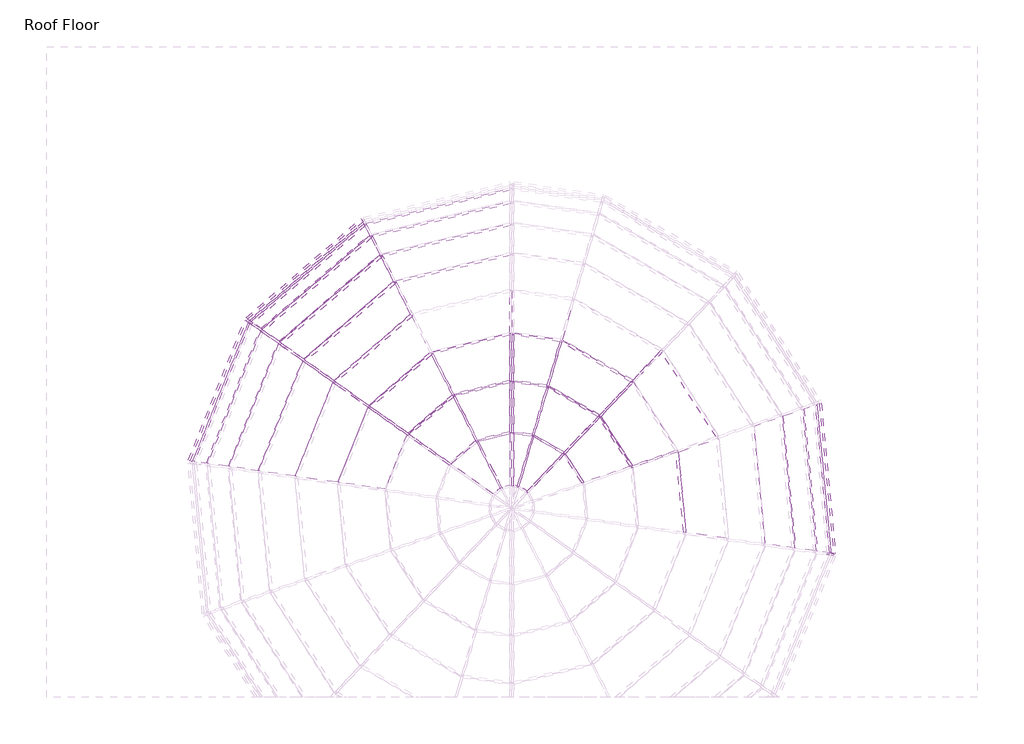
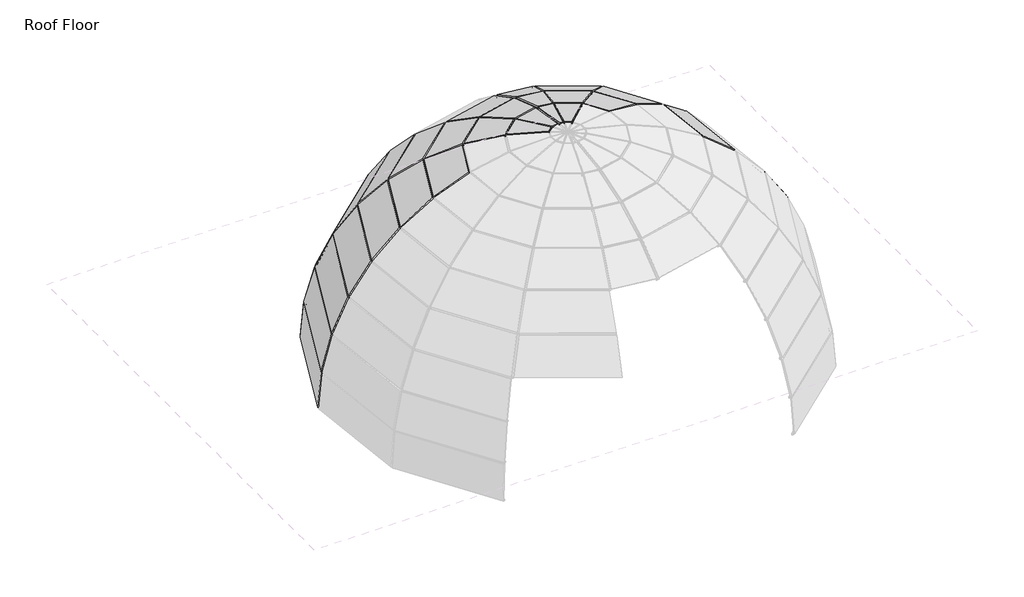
# One storey, part 4 of 5: 58 members, 33 plates.
"""IFC4 building model written with IfcOpenShell, lengths in millimetres."""

from ifc_helpers import new_model, si_unit, origin, place, context, project, spatial, transform, mapped, element, save
from components import member_e5884c93, member_68b33a8a, member_1644e863, member_7f7bd10d, member_27f65fe7, member_ecfbb555, member_824fc51d, member_3542fcca, member_54749c12, member_b6c57be0, member_ac816b31, member_27e61d6b, member_24c90e2e, member_355504b0, member_dee8aa16, member_df6d12cb, member_6952dcc5, member_4046197d, member_16c772f1, member_ac46e98e, member_b6a9e346, member_16816f3b, member_d3833f24, member_95e271e4, member_8ccf5568, member_a4aff84e, member_5ef621be, member_85a1b8f2, system_panel_glazed_dfb81899, system_panel_glazed_10998a2e, system_panel_glazed_044c179b, system_panel_glazed_0d06b648, system_panel_glazed_0487fba4, system_panel_glazed_bd6fc11e, system_panel_glazed_82f63ae4, system_panel_glazed_cc30576f, system_panel_glazed_e6c51f9e, system_panel_glazed_c38a1470, system_panel_glazed_e8cc6fa0, system_panel_glazed_475a38df, system_panel_glazed_a1227523, system_panel_glazed_6841621f, system_panel_glazed_d824ba65

model = new_model("IFC4")

# Units and contexts
model_context = context("Model", 3, world=origin())
ifc_project = project(units=[si_unit("LENGTHUNIT", "METRE", prefix="MILLI")], contexts=[model_context])

# Site, building, storey
site = spatial("IfcSite", under=ifc_project)
building = spatial("IfcBuilding", under=site)
storey = spatial("IfcBuildingStorey", under=building, Name="Roof Floor", Elevation=15240.0)

# Members
placement = place(None, origin())
member_shape = member_e5884c93(model_context)
element("IfcMember", 1, ObjectType="Rectangular Mullion : 1\" Square", at=placement, inside=storey, context=model_context, shape_type="MappedRepresentation", body=[
    mapped(member_shape, transform((-5386.0704997, 1405.930168, 21117.9670279), x_axis=(0.4123904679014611, -0.47609224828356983, 0.7767047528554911), y_axis=(-0.5085307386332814, 0.5870832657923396, 0.6298648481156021), z_axis=(-0.75586413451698, -0.654728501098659, 0.0))),
])
member_2_shape = member_68b33a8a(model_context)
element("IfcMember", 2, ObjectType="Rectangular Mullion : 1\" Square", at=placement, inside=storey, context=model_context, shape_type="MappedRepresentation", body=[
    mapped(member_2_shape, transform((-4103.8308858, 2508.907042, 21117.9670279), x_axis=(0.14846056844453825, -0.6121186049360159, 0.7767047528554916), y_axis=(-0.18307106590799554, 0.7548213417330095, 0.6298648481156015), z_axis=(-0.9718253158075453, -0.23570226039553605, 0.0))),
])
member_3_shape = member_1644e863(model_context)
element("IfcMember", 3, ObjectType="Rectangular Mullion : 1\" Square", at=placement, inside=storey, context=model_context, shape_type="MappedRepresentation", body=[
    mapped(member_3_shape, transform((-5728.2554226, 1649.7192684, 20482.2624164), x_axis=(0.32116850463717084, -0.37077926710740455, 0.8714204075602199), y_axis=(-0.5705437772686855, 0.6586754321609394, 0.4905369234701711), z_axis=(-0.7558641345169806, -0.6547285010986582, 0.0))),
])
member_4_shape = member_7f7bd10d(model_context)
element("IfcMember", 4, ObjectType="Rectangular Mullion : 1\" Square", at=placement, inside=storey, context=model_context, shape_type="MappedRepresentation", body=[
    mapped(member_4_shape, transform((-3600.7420563, 1505.830564, 22138.0708204), x_axis=(-0.8888888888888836, -0.4581228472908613, 0.0), y_axis=(-0.21406900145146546, 0.41535487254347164, 0.8841124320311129), z_axis=(-0.40503210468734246, 0.7858777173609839, -0.4672742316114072))),
])
element("IfcMember", 5, ObjectType="Rectangular Mullion : 1\" Square", at=placement, inside=storey, context=model_context, shape_type="MappedRepresentation", body=[
    mapped(member_4_shape, transform((-3292.1075926, 906.9917434, 22494.1337848), x_axis=(-0.8888888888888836, -0.4581228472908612, 0.0), y_axis=(-0.14382527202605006, 0.2790620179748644, 0.9494412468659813), z_axis=(-0.43496072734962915, 0.8439477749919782, -0.31394477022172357))),
])
element("IfcMember", 6, ObjectType="Rectangular Mullion : 1\" Square", at=placement, inside=storey, context=model_context, shape_type="MappedRepresentation", body=[
    mapped(member_4_shape, transform((-6143.0111393, 1930.0571323, 19047.3495572), x_axis=(-0.5802469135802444, -0.8144406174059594, 0.0), y_axis=(-0.789063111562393, 0.5621667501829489, 0.247685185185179), z_axis=(-0.20172487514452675, 0.14371856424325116, -0.9688405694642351))),
])
element("IfcMember", 7, ObjectType="Rectangular Mullion : 1\" Square", at=placement, inside=storey, context=model_context, shape_type="MappedRepresentation", body=[
    mapped(member_4_shape, transform((-5989.2967844, 1820.5435863, 19785.6060711), x_axis=(-0.5802469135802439, -0.8144406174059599, 0.0), y_axis=(-0.7446000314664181, 0.5304890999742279, 0.4051568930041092), z_axis=(-0.32997623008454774, 0.2350910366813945, -0.9142471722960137))),
])
element("IfcMember", 8, ObjectType="Rectangular Mullion : 1\" Square", at=placement, inside=storey, context=model_context, shape_type="MappedRepresentation", body=[
    mapped(member_4_shape, transform((-5737.8548971, 1641.4042164, 20482.2624164), x_axis=(-0.580246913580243, -0.8144406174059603, 0.0), y_axis=(-0.6794536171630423, 0.48407564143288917, 0.5513742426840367), z_axis=(-0.4490615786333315, 0.3199332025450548, -0.8342580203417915))),
])
element("IfcMember", 9, ObjectType="Rectangular Mullion : 1\" Square", at=placement, inside=storey, context=model_context, shape_type="MappedRepresentation", body=[
    mapped(member_4_shape, transform((-5395.6699742, 1397.6151161, 21117.9670279), x_axis=(-0.5802469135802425, -0.8144406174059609, 0.0), y_axis=(-0.5954334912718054, 0.42421563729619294, 0.6822756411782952), z_axis=(-0.5556729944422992, 0.3958883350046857, -0.7310950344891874))),
])
element("IfcMember", 10, ObjectType="Rectangular Mullion : 1\" Square", at=placement, inside=storey, context=model_context, shape_type="MappedRepresentation", body=[
    mapped(member_4_shape, transform((-4972.2471524, 1095.9482048, 21675.0614442), x_axis=(-0.5802469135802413, -0.8144406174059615, 0.0), y_axis=(-0.49487354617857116, 0.35257186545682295, 0.7942249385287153), z_axis=(-0.6468490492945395, 0.4608465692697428, -0.6076238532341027))),
])
element("IfcMember", 11, ObjectType="Rectangular Mullion : 1\" Square", at=placement, inside=storey, context=model_context, shape_type="MappedRepresentation", body=[
    mapped(member_4_shape, transform((-4479.3481768, 744.783119, 22138.0708204), x_axis=(-0.5802469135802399, -0.8144406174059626, 0.0), y_axis=(-0.3805671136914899, 0.27113443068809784, 0.8841124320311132), z_axis=(-0.7200570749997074, 0.5130035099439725, -0.4672742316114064))),
])
element("IfcMember", 12, ObjectType="Rectangular Mullion : 1\" Square", at=placement, inside=storey, context=model_context, shape_type="MappedRepresentation", body=[
    mapped(member_4_shape, transform((-4536.5524727, 3321.569478, 19047.3495572), x_axis=(-0.888888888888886, -0.45812284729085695, 0.0), y_axis=(-0.4438480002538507, 0.8611916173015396, 0.2476851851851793), z_axis=(-0.11347024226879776, 0.2201646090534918, -0.9688405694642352))),
])
element("IfcMember", 13, ObjectType="Rectangular Mullion : 1\" Square", at=placement, inside=storey, context=model_context, shape_type="MappedRepresentation", body=[
    mapped(member_4_shape, transform((-4450.0881481, 3153.8040459, 19785.6060711), x_axis=(-0.8888888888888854, -0.4581228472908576, 0.0), y_axis=(-0.4188375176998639, 0.8126641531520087, 0.40515689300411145), z_axis=(-0.18561162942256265, 0.36013946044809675, -0.9142471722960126))),
])
element("IfcMember", 14, ObjectType="Rectangular Mullion : 1\" Square", at=placement, inside=storey, context=model_context, shape_type="MappedRepresentation", body=[
    mapped(member_4_shape, transform((-4308.6520865, 2879.377777, 20482.2624164), x_axis=(-0.8888888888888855, -0.4581228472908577, 0.0), y_axis=(-0.3821926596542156, 0.7415626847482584, 0.551374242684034), z_axis=(-0.25259713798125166, 0.49011043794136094, -0.8342580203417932))),
])
element("IfcMember", 15, ObjectType="Rectangular Mullion : 1\" Square", at=placement, inside=storey, context=model_context, shape_type="MappedRepresentation", body=[
    mapped(member_4_shape, transform((-4116.1730673, 2505.9136233, 21117.9670279), x_axis=(-0.888888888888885, -0.45812284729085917, 0.0), y_axis=(-0.3349313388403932, 0.6498622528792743, 0.6822756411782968), z_axis=(-0.31256605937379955, 0.6064672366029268, -0.7310950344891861))),
])
element("IfcMember", 16, ObjectType="Rectangular Mullion : 1\" Square", at=placement, inside=storey, context=model_context, shape_type="MappedRepresentation", body=[
    mapped(member_4_shape, transform((-3930.6646857, 353.8744444, 22494.1337848), x_axis=(-0.5802469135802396, -0.8144406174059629, 0.0), y_axis=(-0.25568937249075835, 0.182165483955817, 0.9494412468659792), z_axis=(-0.7732635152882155, 0.5509103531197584, -0.3139447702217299))),
])
element("IfcMember", 17, ObjectType="Rectangular Mullion : 1\" Square", at=placement, inside=storey, context=model_context, shape_type="MappedRepresentation", body=[
    mapped(member_4_shape, transform((-140.55252, 119.4088235, 22138.0708204), x_axis=(-0.3266270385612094, 0.9451533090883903, 0.0), y_axis=(0.44164578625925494, 0.15262439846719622, 0.8841124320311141), z_axis=(0.8356217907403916, 0.2887750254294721, -0.4672742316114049))),
])
element("IfcMember", 18, ObjectType="Rectangular Mullion : 1\" Square", at=placement, inside=storey, context=model_context, shape_type="MappedRepresentation", body=[
    mapped(member_4_shape, transform((-350.5818969, 1535.3598953, 21675.0614442), x_axis=(-0.7233314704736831, 0.6905009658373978, 0.0), y_axis=(0.41956485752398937, 0.4395134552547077, 0.7942249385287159), z_axis=(0.5484130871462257, 0.5744878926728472, -0.607623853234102))),
])
element("IfcMember", 19, ObjectType="Rectangular Mullion : 1\" Square", at=placement, inside=storey, context=model_context, shape_type="MappedRepresentation", body=[
    mapped(member_4_shape, transform((-768.4726693, 1097.6001211, 22138.0708204), x_axis=(-0.7233314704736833, 0.6905009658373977, 0.0), y_axis=(0.3226533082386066, 0.33799415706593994, 0.884112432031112), z_axis=(0.6104804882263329, 0.639506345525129, -0.46727423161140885))),
])
element("IfcMember", 20, ObjectType="Rectangular Mullion : 1\" Square", at=placement, inside=storey, context=model_context, shape_type="MappedRepresentation", body=[
    mapped(member_4_shape, transform((-1233.6588013, 610.2962858, 22494.1337848), x_axis=(-0.7233314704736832, 0.6905009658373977, 0.0), y_axis=(0.21677916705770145, 0.22708613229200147, 0.9494412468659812), z_axis=(0.6555900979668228, 0.6867607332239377, -0.3139447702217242))),
])
element("IfcMember", 21, ObjectType="Rectangular Mullion : 1\" Square", at=placement, inside=storey, context=model_context, shape_type="MappedRepresentation", body=[
    mapped(member_4_shape, transform((-1774.7556955, 1679.4389301, 22138.0708204), x_axis=(-0.9592955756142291, 0.28240396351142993, 0.0), y_axis=(0.13196009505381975, 0.4482541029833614, 0.8841124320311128), z_axis=(0.24967685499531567, 0.8481251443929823, -0.46727423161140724))),
])
element("IfcMember", 22, ObjectType="Rectangular Mullion : 1\" Square", at=placement, inside=storey, context=model_context, shape_type="MappedRepresentation", body=[
    mapped(member_4_shape, transform((-1965.009459, 1033.1675701, 22494.1337848), x_axis=(-0.959295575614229, 0.2824039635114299, 0.0), y_axis=(0.08865924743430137, 0.30116582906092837, 0.9494412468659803), z_axis=(0.2681259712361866, 0.9107947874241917, -0.313944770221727))),
])
member_5_shape = member_27f65fe7(model_context)
element("IfcMember", 23, ObjectType="Rectangular Mullion : 1\" Square", at=placement, inside=storey, context=model_context, shape_type="MappedRepresentation", body=[
    mapped(member_5_shape, transform((-2960.6675183, 263.9035388, 22733.3596998), x_axis=(-0.8888888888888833, -0.45812284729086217, 0.0), y_axis=(-0.06958639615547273, 0.1350174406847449, 0.9883966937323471), z_axis=(-0.45280710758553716, 0.8785748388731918, -0.15189462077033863))),
])
element("IfcMember", 24, ObjectType="Rectangular Mullion : 1\" Square", at=placement, inside=storey, context=model_context, shape_type="MappedRepresentation", body=[
    mapped(member_5_shape, transform((-1733.2184559, 86.9846071, 22733.3596998), x_axis=(-0.7233314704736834, 0.6905009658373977, 0.0), y_axis=(0.10488338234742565, 0.1098701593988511, 0.9883966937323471), z_axis=(0.6824888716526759, 0.7149384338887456, -0.1518946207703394))),
])
element("IfcMember", 25, ObjectType="Rectangular Mullion : 1\" Square", at=placement, inside=storey, context=model_context, shape_type="MappedRepresentation", body=[
    mapped(member_5_shape, transform((-2169.3214491, 339.141942, 22733.3596998), x_axis=(-0.9592955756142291, 0.2824039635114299, 0.0), y_axis=(0.042895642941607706, 0.14571183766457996, 0.9883966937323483), z_axis=(0.27912714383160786, 0.9481645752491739, -0.15189462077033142))),
])
member_6_shape = member_ecfbb555(model_context)
element("IfcMember", 26, ObjectType="Rectangular Mullion : 1\" Square", at=placement, inside=storey, context=model_context, shape_type="MappedRepresentation", body=[
    mapped(member_6_shape, transform((-5979.6973099, 1828.8586383, 19785.6060711), x_axis=(0.2199875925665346, -0.25396898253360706, 0.9418626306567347), y_axis=(-0.6166643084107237, 0.711920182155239, 0.33599819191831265), z_axis=(-0.7558641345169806, -0.6547285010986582, 0.0))),
])
member_7_shape = member_824fc51d(model_context)
element("IfcMember", 27, ObjectType="Rectangular Mullion : 1\" Square", at=placement, inside=storey, context=model_context, shape_type="MappedRepresentation", body=[
    mapped(member_7_shape, transform((-4437.7459666, 3156.7974646, 19785.6060711), x_axis=(0.0791955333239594, -0.3265315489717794, 0.9418626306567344), y_axis=(-0.22199915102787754, 0.9153259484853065, 0.3359981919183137), z_axis=(-0.9718253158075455, -0.23570226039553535, 0.0))),
])
member_8_shape = member_3542fcca(model_context)
element("IfcMember", 28, ObjectType="Rectangular Mullion : 1\" Square", at=placement, inside=storey, context=model_context, shape_type="MappedRepresentation", body=[
    mapped(member_8_shape, transform((-6133.4116648, 1938.3721843, 19047.3495572), x_axis=(0.11180378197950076, -0.12907406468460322, 0.9853120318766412), y_axis=(-0.6451118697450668, 0.7447620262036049, 0.1707635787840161), z_axis=(-0.7558641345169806, -0.6547285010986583, 0.0))),
])
member_9_shape = member_54749c12(model_context)
element("IfcMember", 29, ObjectType="Rectangular Mullion : 1\" Square", at=placement, inside=storey, context=model_context, shape_type="MappedRepresentation", body=[
    mapped(member_9_shape, transform((-4296.309905, 2882.3711957, 20482.2624164), x_axis=(0.11562066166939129, -0.47671620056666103, 0.8714204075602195), y_axis=(-0.20539575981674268, 0.8468684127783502, 0.4905369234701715), z_axis=(-0.9718253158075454, -0.23570226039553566, 0.0))),
])
member_10_shape = member_b6c57be0(model_context)
element("IfcMember", 30, ObjectType="Rectangular Mullion : 1\" Square", at=placement, inside=storey, context=model_context, shape_type="MappedRepresentation", body=[
    mapped(member_10_shape, transform((-2471.1056157, 1779.8076442, 22138.0708204), x_axis=(0.9893147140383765, 0.08858896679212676, 0.11579460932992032), y_axis=(-0.1457957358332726, 0.6011312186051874, 0.7857384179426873), z_axis=(0.0, -0.7942249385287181, 0.6076238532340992))),
])
member_11_shape = member_ac816b31(model_context)
element("IfcMember", 31, ObjectType="Rectangular Mullion : 1\" Square", at=placement, inside=storey, context=model_context, shape_type="MappedRepresentation", body=[
    mapped(member_11_shape, transform((-2471.1056157, 1106.113971, 22494.1337848), x_axis=(0.9936392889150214, 0.05261965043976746, 0.09955971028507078), y_axis=(-0.11260978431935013, 0.46430203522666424, 0.8784888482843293), z_axis=(0.0, -0.8841124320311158, 0.46727423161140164))),
])
member_12_shape = member_27e61d6b(model_context)
element("IfcMember", 32, ObjectType="Rectangular Mullion : 1\" Square", at=placement, inside=storey, context=model_context, shape_type="MappedRepresentation", body=[
    mapped(member_12_shape, transform((-2471.1056157, 382.6397409, 22733.3596998), x_axis=(0.9971136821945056, 0.023835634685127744, 0.0720844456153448), y_axis=(-0.07592301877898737, 0.313038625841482, 0.9467008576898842), z_axis=(0.0, -0.9494412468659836, 0.31394477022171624))),
])
member_13_shape = member_24c90e2e(model_context)
element("IfcMember", 33, ObjectType="Rectangular Mullion : 1\" Square", at=placement, inside=storey, context=model_context, shape_type="MappedRepresentation", body=[
    mapped(member_13_shape, transform((-4524.2102912, 3324.5628967, 19047.3495572), x_axis=(0.04024936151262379, -0.16595236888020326, 0.9853120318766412), y_axis=(-0.23224027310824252, 0.957551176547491, 0.17076357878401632), z_axis=(-0.9718253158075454, -0.23570226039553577, 0.0))),
])
member_14_shape = member_355504b0(model_context)
element("IfcMember", 34, ObjectType="Rectangular Mullion : 1\" Square", at=placement, inside=storey, context=model_context, shape_type="MappedRepresentation", body=[
    mapped(member_14_shape, transform((-2445.9654175, 379.0161469, 22733.3596998), x_axis=(-0.13878677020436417, -0.9628912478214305, 0.2314706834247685), y_axis=(0.03302188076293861, 0.22910310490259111, 0.9728418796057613), z_axis=(-0.9897715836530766, 0.1426611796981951, 0.0))),
])
member_15_shape = member_dee8aa16(model_context)
element("IfcMember", 35, ObjectType="Rectangular Mullion : 1\" Square", at=placement, inside=storey, context=model_context, shape_type="MappedRepresentation", body=[
    mapped(member_15_shape, transform((-1726.3579262, 76.2970849, 22733.3596998), x_axis=(-0.8194718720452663, -0.5260350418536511, 0.22749282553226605), y_axis=(0.19144367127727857, 0.12289144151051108, 0.9737797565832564), z_axis=(-0.5401991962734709, 0.8415371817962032, 0.0))),
])
element("IfcMember", 36, ObjectType="Rectangular Mullion : 1\" Square", at=placement, inside=storey, context=model_context, shape_type="MappedRepresentation", body=[
    mapped(member_15_shape, transform((-2158.3270023, 332.7848877, 22733.3596998), x_axis=(-0.4874307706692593, -0.843005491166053, 0.2274928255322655), y_axis=(0.11387277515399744, 0.19694155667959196, 0.9737797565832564), z_axis=(-0.8657044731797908, 0.5005554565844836, 0.0))),
])
member_16_shape = member_df6d12cb(model_context)
element("IfcMember", 37, ObjectType="Rectangular Mullion : 1\" Square", at=placement, inside=storey, context=model_context, shape_type="MappedRepresentation", body=[
    mapped(member_16_shape, transform((-2948.3253368, 266.8969575, 22733.3596998), x_axis=(0.2295220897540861, -0.9463438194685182, 0.22749282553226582), y_axis=(-0.053620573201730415, 0.22108328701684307, 0.9737797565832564), z_axis=(-0.9718253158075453, -0.23570226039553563, 0.0))),
])
member_17_shape = member_6952dcc5(model_context)
element("IfcMember", 38, ObjectType="Rectangular Mullion : 1\" Square", at=placement, inside=storey, context=model_context, shape_type="MappedRepresentation", body=[
    mapped(member_17_shape, transform((-6199.4516694, 1955.1139154, 18288.0), x_axis=(-0.07519001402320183, 0.030126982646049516, -0.9967140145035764), y_axis=(-0.9252092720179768, 0.3707109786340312, 0.0810010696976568), z_axis=(0.37193314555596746, 0.9282595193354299, 0.0))),
])
element("IfcMember", 39, ObjectType="Rectangular Mullion : 1\" Square", at=placement, inside=storey, context=model_context, shape_type="MappedRepresentation", body=[
    mapped(member_17_shape, transform((-4575.242748, 3369.6988705, 18288.0), x_axis=(-0.053033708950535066, 0.06122580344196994, -0.9967140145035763), y_axis=(-0.6525770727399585, 0.7533803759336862, 0.0810010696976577), z_axis=(0.7558641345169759, 0.6547285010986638, 0.0))),
])
element("IfcMember", 40, ObjectType="Rectangular Mullion : 1\" Square", at=placement, inside=storey, context=model_context, shape_type="MappedRepresentation", body=[
    mapped(member_17_shape, transform((2052.9280142, -1325.590006, 18288.0), x_axis=(0.08063742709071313, 0.0076667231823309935, -0.9967140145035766), y_axis=(0.9922394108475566, 0.09433863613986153, 0.08100106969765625), z_axis=(0.09464965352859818, -0.995510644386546, 0.0))),
])
member_18_shape = member_4046197d(model_context)
element("IfcMember", 41, ObjectType="Rectangular Mullion : 1\" Square", at=placement, inside=storey, context=model_context, shape_type="MappedRepresentation", body=[
    mapped(member_18_shape, transform((-2445.9654175, 1102.490377, 22494.1337848), x_axis=(-0.13145065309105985, -0.9119938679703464, 0.3885716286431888), y_axis=(0.05543408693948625, 0.38459715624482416, 0.9214185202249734), z_axis=(-0.9897715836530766, 0.142661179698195, 0.0))),
])
member_19_shape = member_16c772f1(model_context)
element("IfcMember", 42, ObjectType="Rectangular Mullion : 1\" Square", at=placement, inside=storey, context=model_context, shape_type="MappedRepresentation", body=[
    mapped(member_19_shape, transform((-3921.0652112, 362.1894964, 22494.1337848), x_axis=(0.6049222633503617, -0.6983643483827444, 0.38256540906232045), y_axis=(-0.25047647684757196, 0.2891674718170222, 0.9239284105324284), z_axis=(-0.7558641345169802, -0.654728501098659, 0.0))),
])
element("IfcMember", 43, ObjectType="Rectangular Mullion : 1\" Square", at=placement, inside=storey, context=model_context, shape_type="MappedRepresentation", body=[
    mapped(member_19_shape, transform((-1226.7982715, 599.6087636, 22494.1337848), x_axis=(-0.7775201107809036, -0.4991053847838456, 0.3825654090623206), y_axis=(0.32194301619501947, 0.20666152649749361, 0.9239284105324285), z_axis=(-0.5401991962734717, 0.8415371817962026, 0.0))),
])
element("IfcMember", 44, ObjectType="Rectangular Mullion : 1\" Square", at=placement, inside=storey, context=model_context, shape_type="MappedRepresentation", body=[
    mapped(member_19_shape, transform((-1954.0150122, 1026.8105158, 22494.1337848), x_axis=(-0.46247740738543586, -0.7998489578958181, 0.38256540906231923), y_axis=(0.19149520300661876, 0.33118858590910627, 0.9239284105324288), z_axis=(-0.865704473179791, 0.5005554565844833, 0.0))),
])
member_20_shape = member_ac46e98e(model_context)
element("IfcMember", 45, ObjectType="Rectangular Mullion : 1\" Square", at=placement, inside=storey, context=model_context, shape_type="MappedRepresentation", body=[
    mapped(member_20_shape, transform((-3279.7654111, 909.9851621, 22494.1337848), x_axis=(0.21777201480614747, -0.8978970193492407, 0.3825654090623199), y_axis=(-0.09017153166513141, 0.3717867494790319, 0.9239284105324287), z_axis=(-0.9718253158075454, -0.23570226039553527, 0.0))),
])
member_21_shape = member_b6a9e346(model_context)
element("IfcMember", 46, ObjectType="Rectangular Mullion : 1\" Square", at=placement, inside=storey, context=model_context, shape_type="MappedRepresentation", body=[
    mapped(member_21_shape, transform((-2445.9654175, 1776.1840502, 22138.0708204), x_axis=(-0.12049183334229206, -0.8359624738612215, 0.5353956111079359), y_axis=(0.07638016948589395, 0.5299193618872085, 0.8446014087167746), z_axis=(-0.9897715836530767, 0.14266117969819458, 0.0))),
])
member_22_shape = member_16816f3b(model_context)
element("IfcMember", 47, ObjectType="Rectangular Mullion : 1\" Square", at=placement, inside=storey, context=model_context, shape_type="MappedRepresentation", body=[
    mapped(member_22_shape, transform((-4469.7487023, 753.098171, 22138.0708204), x_axis=(0.5558548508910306, -0.6417175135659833, 0.528416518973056), y_axis=(-0.3459693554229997, 0.39941109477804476, 0.8489852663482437), z_axis=(-0.7558641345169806, -0.6547285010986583, 0.0))),
])
element("IfcMember", 48, ObjectType="Rectangular Mullion : 1\" Square", at=placement, inside=storey, context=model_context, shape_type="MappedRepresentation", body=[
    mapped(member_22_shape, transform((-139.3504694, 106.7658383, 22138.0708204), x_axis=(-0.8451738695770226, -0.08035616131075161, 0.5284165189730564), y_axis=(0.5260442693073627, 0.0500144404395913, 0.8489852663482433), z_axis=(-0.09464965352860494, 0.9955106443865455, 0.0))),
])
element("IfcMember", 49, ObjectType="Rectangular Mullion : 1\" Square", at=placement, inside=storey, context=model_context, shape_type="MappedRepresentation", body=[
    mapped(member_22_shape, transform((-1763.7612487, 1673.0818758, 22138.0708204), x_axis=(-0.4249642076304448, -0.7349703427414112, 0.5284165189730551), y_axis=(0.264501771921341, 0.45745254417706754, 0.8489852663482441), z_axis=(-0.8657044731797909, 0.5005554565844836, 0.0))),
])
member_23_shape = member_d3833f24(model_context)
element("IfcMember", 50, ObjectType="Rectangular Mullion : 1\" Square", at=placement, inside=storey, context=model_context, shape_type="MappedRepresentation", body=[
    mapped(member_23_shape, transform((-3588.3998748, 1508.8239827, 22138.0708204), x_axis=(0.2001077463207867, -0.8250653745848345, 0.5284165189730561), y_axis=(-0.1245489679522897, 0.5135285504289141, 0.8489852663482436), z_axis=(-0.9718253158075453, -0.23570226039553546, 0.0))),
])
member_24_shape = member_95e271e4(model_context)
element("IfcMember", 51, ObjectType="Rectangular Mullion : 1\" Square", at=placement, inside=storey, context=model_context, shape_type="MappedRepresentation", body=[
    mapped(member_24_shape, transform((-4962.6476779, 1104.2632567, 21675.0614442), x_axis=(0.49123616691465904, -0.5671172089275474, 0.6611089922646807), y_axis=(-0.4328468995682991, 0.4997085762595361, 0.7502898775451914), z_axis=(-0.7558641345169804, -0.6547285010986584, 0.0))),
])
element("IfcMember", 52, ObjectType="Rectangular Mullion : 1\" Square", at=placement, inside=storey, context=model_context, shape_type="MappedRepresentation", body=[
    mapped(member_24_shape, transform((-343.7213671, 1524.6723731, 21675.0614442), x_axis=(-0.631396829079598, -0.40530598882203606, 0.6611089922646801), y_axis=(0.5563477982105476, 0.3571305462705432, 0.7502898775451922), z_axis=(-0.5401991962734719, 0.8415371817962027, 0.0))),
])
member_25_shape = member_8ccf5568(model_context)
element("IfcMember", 53, ObjectType="Rectangular Mullion : 1\" Square", at=placement, inside=storey, context=model_context, shape_type="MappedRepresentation", body=[
    mapped(member_25_shape, transform((-4565.6432735, 3378.0139224, 18288.0), x_axis=(-0.8888888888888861, -0.4581228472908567, 0.0), y_axis=(-0.4565293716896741, 0.8857970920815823, 0.08333333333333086), z_axis=(-0.03817690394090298, 0.07407407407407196, -0.9965217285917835))),
])
element("IfcMember", 54, ObjectType="Rectangular Mullion : 1\" Square", at=placement, inside=storey, context=model_context, shape_type="MappedRepresentation", body=[
    mapped(member_25_shape, transform((-6194.7281185, 1966.9028113, 18288.0), x_axis=(-0.5802469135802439, -0.8144406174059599, 0.0), y_axis=(-0.8116077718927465, 0.5782286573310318, 0.08333333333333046), z_axis=(-0.06787005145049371, 0.04835390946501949, -0.9965217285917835))),
])
element("IfcMember", 55, ObjectType="Rectangular Mullion : 1\" Square", at=placement, inside=storey, context=model_context, shape_type="MappedRepresentation", body=[
    mapped(member_25_shape, transform((2054.1300648, -1338.2329912, 18288.0), x_axis=(0.1426611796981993, 0.9897715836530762, 0.0), y_axis=(0.9863288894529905, -0.1421649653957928, 0.08333333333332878), z_axis=(0.0824809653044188, -0.011888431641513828, -0.9965217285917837))),
])
member_26_shape = member_a4aff84e(model_context)
element("IfcMember", 56, ObjectType="Rectangular Mullion : 1\" Square", at=placement, inside=storey, context=model_context, shape_type="MappedRepresentation", body=[
    mapped(member_26_shape, transform((-2471.1056157, 1106.113971, 22494.1337848), x_axis=(-0.9989777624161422, 0.014191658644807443, 0.0429188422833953), y_axis=(0.04520431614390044, 0.31362384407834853, 0.9484706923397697), z_axis=(0.0, 0.9494412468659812, -0.3139447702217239))),
])
member_27_shape = member_5ef621be(model_context)
element("IfcMember", 57, ObjectType="Rectangular Mullion : 1\" Square", at=placement, inside=storey, context=model_context, shape_type="MappedRepresentation", body=[
    mapped(member_27_shape, transform((-2471.1056157, 382.6397409, 22733.3596998), x_axis=(-0.9997604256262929, 0.003324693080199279, 0.021634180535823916), y_axis=(0.021888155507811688, 0.1518582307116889, 0.9881598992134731), z_axis=(0.0, 0.9883966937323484, -0.15189462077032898))),
])
member_28_shape = member_85a1b8f2(model_context)
element("IfcMember", 58, ObjectType="Rectangular Mullion : 1\" Square", at=placement, inside=storey, context=model_context, shape_type="MappedRepresentation", body=[
    mapped(member_28_shape, transform((-2471.1056157, 1779.8076442, 22138.0708204), x_axis=(-0.9977396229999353, 0.03140014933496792, 0.05941107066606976), y_axis=(0.06719854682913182, 0.46621801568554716, 0.8821140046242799), z_axis=(0.0, 0.8841124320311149, -0.4672742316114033))),
])

# Plates
system_panel_glazed_shape = system_panel_glazed_dfb81899(model_context)
element("IfcPlate", 59, ObjectType="System Panel : Glazed", at=placement, inside=storey, context=model_context, shape_type="MappedRepresentation", body=[
    mapped(system_panel_glazed_shape, transform((1950.0844985, -265.634859, 18313.316536), x_axis=(-0.09464965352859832, 0.9955106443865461, 0.0), y_axis=(-0.9922394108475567, -0.09433863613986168, -0.08100106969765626), z_axis=(-0.08063742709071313, -0.007666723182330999, 0.9967140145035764))),
])
element("IfcPlate", 60, ObjectType="System Panel : Glazed", at=placement, inside=storey, context=model_context, shape_type="MappedRepresentation", body=[
    mapped(system_panel_glazed_shape, transform((-5378.8386398, 2670.9032315, 18313.316536), x_axis=(-0.7558641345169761, -0.6547285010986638, 0.0), y_axis=(0.6525770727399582, -0.7533803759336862, -0.08100106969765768), z_axis=(0.05303370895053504, -0.061225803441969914, 0.9967140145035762))),
])
element("IfcPlate", 61, ObjectType="System Panel : Glazed", at=placement, inside=storey, context=model_context, shape_type="MappedRepresentation", body=[
    mapped(system_panel_glazed_shape, transform((-6593.624881, 965.8165983, 18313.316536), x_axis=(-0.3719331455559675, -0.9282595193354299, 0.0), y_axis=(0.9252092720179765, -0.37071097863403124, -0.0810010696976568), z_axis=(0.07519001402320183, -0.03012698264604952, 0.9967140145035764))),
])
system_panel_glazed_2_shape = system_panel_glazed_10998a2e(model_context)
element("IfcPlate", 62, ObjectType="System Panel : Glazed", at=placement, inside=storey, context=model_context, shape_type="MappedRepresentation", body=[
    mapped(system_panel_glazed_2_shape, transform((1887.6503728, -271.5708762, 19059.674854), x_axis=(-0.09464965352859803, 0.9955106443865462, 0.0), y_axis=(-0.9661389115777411, -0.09185709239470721, -0.24111797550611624), z_axis=(-0.24003551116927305, -0.022821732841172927, 0.9704958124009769))),
])
element("IfcPlate", 63, ObjectType="System Panel : Glazed", at=placement, inside=storey, context=model_context, shape_type="MappedRepresentation", body=[
    mapped(system_panel_glazed_2_shape, transform((-5337.7768975, 2623.4986993, 19059.674854), x_axis=(-0.755864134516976, -0.6547285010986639, 0.0), y_axis=(0.6354112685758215, -0.7335629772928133, -0.241117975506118), z_axis=(0.15786681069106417, -0.18225242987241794, 0.9704958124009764))),
])
element("IfcPlate", 64, ObjectType="System Panel : Glazed", at=placement, inside=storey, context=model_context, shape_type="MappedRepresentation", body=[
    mapped(system_panel_glazed_2_shape, transform((-6535.4084552, 942.4905587, 19059.674854), x_axis=(-0.3719331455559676, -0.9282595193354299, 0.0), y_axis=(0.9008719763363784, -0.36095956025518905, -0.24111797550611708), z_axis=(0.22382005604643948, -0.0896797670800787, 0.9704958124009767))),
])
system_panel_glazed_3_shape = system_panel_glazed_044c179b(model_context)
element("IfcPlate", 65, ObjectType="System Panel : Glazed", at=placement, inside=storey, context=model_context, shape_type="MappedRepresentation", body=[
    mapped(system_panel_glazed_3_shape, transform((1703.1027978, -289.1170111, 19797.2703184), x_axis=(-0.09464965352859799, 0.9955106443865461, 0.0), y_axis=(-0.9143214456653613, -0.08693046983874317, -0.3955494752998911), z_axis=(-0.39377371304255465, -0.03743862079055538, 0.9184446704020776))),
])
element("IfcPlate", 66, ObjectType="System Panel : Glazed", at=placement, inside=storey, context=model_context, shape_type="MappedRepresentation", body=[
    mapped(system_panel_glazed_3_shape, transform((-5216.4034518, 2483.376749, 19797.2703184), x_axis=(-0.7558641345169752, -0.6547285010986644, 0.0), y_axis=(0.6013319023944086, -0.6942193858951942, -0.39554947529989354), z_axis=(0.2589775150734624, -0.2989816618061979, 0.9184446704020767))),
])
element("IfcPlate", 67, ObjectType="System Panel : Glazed", at=placement, inside=storey, context=model_context, shape_type="MappedRepresentation", body=[
    mapped(system_panel_glazed_3_shape, transform((-6363.3278811, 873.5416625, 19797.2703184), x_axis=(-0.371933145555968, -0.9282595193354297, 0.0), y_axis=(0.8525550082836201, -0.3416000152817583, -0.3955494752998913), z_axis=(0.36717256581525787, -0.14711796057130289, 0.9184446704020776))),
])
system_panel_glazed_4_shape = system_panel_glazed_0d06b648(model_context)
element("IfcPlate", 68, ObjectType="System Panel : Glazed", at=placement, inside=storey, context=model_context, shape_type="MappedRepresentation", body=[
    mapped(system_panel_glazed_4_shape, transform((1402.5869203, -317.6890046, 20492.9481164), x_axis=(-0.09464965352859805, 0.9955106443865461, 0.0), y_axis=(-0.8376163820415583, -0.07963762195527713, -0.5404226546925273), z_axis=(-0.5379965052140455, -0.051150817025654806, 0.8413936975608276))),
])
element("IfcPlate", 69, ObjectType="System Panel : Glazed", at=placement, inside=storey, context=model_context, shape_type="MappedRepresentation", body=[
    mapped(system_panel_glazed_4_shape, transform((-5018.7598493, 2255.2032232, 20492.9481164), x_axis=(-0.7558641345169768, -0.654728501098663, 0.0), y_axis=(0.5508844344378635, -0.6359793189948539, -0.540422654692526), z_axis=(0.35383011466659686, -0.4084861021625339, 0.8413936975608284))),
])
element("IfcPlate", 70, ObjectType="System Panel : Glazed", at=placement, inside=storey, context=model_context, shape_type="MappedRepresentation", body=[
    mapped(system_panel_glazed_4_shape, transform((-6083.1131736, 761.2658006, 20492.9481164), x_axis=(-0.37193314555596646, -0.9282595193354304, 0.0), y_axis=(0.7810317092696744, -0.3129422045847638, -0.5404226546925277), z_axis=(0.5016524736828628, -0.20100109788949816, 0.8413936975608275))),
])
system_panel_glazed_5_shape = system_panel_glazed_0487fba4(model_context)
element("IfcPlate", 71, ObjectType="System Panel : Glazed", at=placement, inside=storey, context=model_context, shape_type="MappedRepresentation", body=[
    mapped(system_panel_glazed_5_shape, transform((-4750.3354993, 1945.3154778, 21127.3743739), x_axis=(-0.755864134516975, -0.6547285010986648, 0.0), y_axis=(0.484980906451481, -0.5598957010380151, -0.6717963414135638), z_axis=(0.4398442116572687, -0.5077867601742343, 0.7407359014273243))),
])
element("IfcPlate", 72, ObjectType="System Panel : Glazed", at=placement, inside=storey, context=model_context, shape_type="MappedRepresentation", body=[
    mapped(system_panel_glazed_5_shape, transform((-5702.5470951, 608.7813544, 21127.3743739), x_axis=(-0.37193314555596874, -0.9282595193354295, 0.0), y_axis=(0.6875951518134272, -0.2755042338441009, -0.6717963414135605), z_axis=(0.6236013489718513, -0.24986332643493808, 0.7407359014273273))),
])
system_panel_glazed_6_shape = system_panel_glazed_bd6fc11e(model_context)
element("IfcPlate", 73, ObjectType="System Panel : Glazed", at=placement, inside=storey, context=model_context, shape_type="MappedRepresentation", body=[
    mapped(system_panel_glazed_6_shape, transform((490.0308265, -404.451631, 21682.9171425), x_axis=(-0.09464965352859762, 0.9955106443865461, 0.0), y_axis=(-0.6157819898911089, -0.05854638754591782, -0.7857384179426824), z_axis=(-0.782210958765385, -0.07436986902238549, 0.6185589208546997))),
])
element("IfcPlate", 74, ObjectType="System Panel : Glazed", at=placement, inside=storey, context=model_context, shape_type="MappedRepresentation", body=[
    mapped(system_panel_glazed_6_shape, transform((-982.2084229, 1889.0432084, 21682.9171425), x_axis=(-0.8657044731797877, 0.500555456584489, 0.0), y_axis=(-0.3096230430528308, -0.5354892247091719, -0.7857384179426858), z_axis=(-0.39330565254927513, -0.6802172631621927, 0.6185589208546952))),
])
element("IfcPlate", 75, ObjectType="System Panel : Glazed", at=placement, inside=storey, context=model_context, shape_type="MappedRepresentation", body=[
    mapped(system_panel_glazed_6_shape, transform((-4418.5889855, 1562.324221, 21682.9171425), x_axis=(-0.755864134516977, -0.6547285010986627, 0.0), y_axis=(0.4049881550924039, -0.46754650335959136, -0.7857384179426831), z_axis=(0.5144453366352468, -0.5939114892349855, 0.6185589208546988))),
])
element("IfcPlate", 76, ObjectType="System Panel : Glazed", at=placement, inside=storey, context=model_context, shape_type="MappedRepresentation", body=[
    mapped(system_panel_glazed_6_shape, transform((-5232.20426, 420.3253392, 21682.9171425), x_axis=(-0.3719331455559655, -0.9282595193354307, 0.0), y_axis=(0.574183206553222, -0.23006256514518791, -0.7857384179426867), z_axis=(0.7293691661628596, -0.29224216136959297, 0.6185589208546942))),
])
system_panel_glazed_7_shape = system_panel_glazed_82f63ae4(model_context)
element("IfcPlate", 77, ObjectType="System Panel : Glazed", at=placement, inside=storey, context=model_context, shape_type="MappedRepresentation", body=[
    mapped(system_panel_glazed_7_shape, transform((-3039.6037606, 1630.4463302, 22144.1384086), x_axis=(-0.9718253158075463, -0.23570226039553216, 0.0), y_axis=(0.11260978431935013, -0.46430203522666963, -0.8784888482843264), z_axis=(0.20706180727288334, -0.8537377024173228, 0.47776285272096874))),
])
system_panel_glazed_8_shape = system_panel_glazed_cc30576f(model_context)
element("IfcPlate", 78, ObjectType="System Panel : Glazed", at=placement, inside=storey, context=model_context, shape_type="MappedRepresentation", body=[
    mapped(system_panel_glazed_8_shape, transform((-463.9014637, 602.4775734, 22144.1384086), x_axis=(-0.5401991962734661, 0.8415371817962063, 0.0), y_axis=(-0.4020552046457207, -0.25808710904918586, -0.8784888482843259), z_axis=(-0.7392810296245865, -0.4745589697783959, 0.4777628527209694))),
])
element("IfcPlate", 79, ObjectType="System Panel : Glazed", at=placement, inside=storey, context=model_context, shape_type="MappedRepresentation", body=[
    mapped(system_panel_glazed_8_shape, transform((-1277.1987837, 1378.8610267, 22144.1384086), x_axis=(-0.8657044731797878, 0.5005554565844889, 0.0), y_axis=(-0.2391468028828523, -0.413601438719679, -0.8784888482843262), z_axis=(-0.43973238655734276, -0.7605117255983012, 0.47776285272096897))),
])
element("IfcPlate", 80, ObjectType="System Panel : Glazed", at=placement, inside=storey, context=model_context, shape_type="MappedRepresentation", body=[
    mapped(system_panel_glazed_8_shape, transform((-4032.7404362, 1116.8738102, 22144.1384086), x_axis=(-0.755864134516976, -0.6547285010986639, 0.0), y_axis=(0.3128049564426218, -0.3611238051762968, -0.878488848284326), z_axis=(0.5751716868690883, -0.664018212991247, 0.47776285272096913))),
])
element("IfcPlate", 81, ObjectType="System Panel : Glazed", at=placement, inside=storey, context=model_context, shape_type="MappedRepresentation", body=[
    mapped(system_panel_glazed_8_shape, transform((-4685.1567612, 201.1354545, 22144.1384086), x_axis=(-0.37193314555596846, -0.9282595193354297, 0.0), y_axis=(0.44348791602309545, -0.1776958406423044, -0.8784888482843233), z_axis=(0.815465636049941, -0.3267391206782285, 0.47776285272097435))),
])
system_panel_glazed_9_shape = system_panel_glazed_e6c51f9e(model_context)
element("IfcPlate", 82, ObjectType="System Panel : Glazed", at=placement, inside=storey, context=model_context, shape_type="MappedRepresentation", body=[
    mapped(system_panel_glazed_9_shape, transform((-2118.1932205, 1717.6218353, 22144.0529771), x_axis=(-0.9897715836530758, 0.14266117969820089, 0.0), y_axis=(-0.0671985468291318, -0.466218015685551, -0.8821140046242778), z_axis=(-0.12584342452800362, -0.8730913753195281, 0.47103596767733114))),
])
system_panel_glazed_10_shape = system_panel_glazed_c38a1470(model_context)
element("IfcPlate", 83, ObjectType="System Panel : Glazed", at=placement, inside=storey, context=model_context, shape_type="MappedRepresentation", body=[
    mapped(system_panel_glazed_10_shape, transform((-2885.104404, 993.3328473, 22498.2246338), x_axis=(-0.9718253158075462, -0.23570226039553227, 0.0), y_axis=(0.07592301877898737, -0.31303862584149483, -0.9467008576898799), z_axis=(0.22313953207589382, -0.9200278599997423, 0.3221140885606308))),
])
system_panel_glazed_11_shape = system_panel_glazed_e8cc6fa0(model_context)
element("IfcPlate", 84, ObjectType="System Panel : Glazed", at=placement, inside=storey, context=model_context, shape_type="MappedRepresentation", body=[
    mapped(system_panel_glazed_11_shape, transform((-1015.5954494, 248.3344005, 22498.2246338), x_axis=(-0.5401991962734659, 0.8415371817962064, 0.0), y_axis=(-0.27107098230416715, -0.17400577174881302, -0.9467008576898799), z_axis=(-0.796683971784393, -0.511407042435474, 0.3221140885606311))),
])
element("IfcPlate", 85, ObjectType="System Panel : Glazed", at=placement, inside=storey, context=model_context, shape_type="MappedRepresentation", body=[
    mapped(system_panel_glazed_11_shape, transform((-1605.3523589, 811.3234757, 22498.2246338), x_axis=(-0.865704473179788, 0.5005554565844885, 0.0), y_axis=(-0.16123596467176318, -0.27885560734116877, -0.9467008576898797), z_axis=(-0.4738762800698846, -0.8195631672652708, 0.32211408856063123))),
])
element("IfcPlate", 86, ObjectType="System Panel : Glazed", at=placement, inside=storey, context=model_context, shape_type="MappedRepresentation", body=[
    mapped(system_panel_glazed_11_shape, transform((-3603.5142723, 621.3452631, 22498.2246338), x_axis=(-0.7558641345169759, -0.6547285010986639, 0.0), y_axis=(0.21089727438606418, -0.24347448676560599, -0.9467008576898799), z_axis=(0.6198320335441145, -0.7155772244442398, 0.32211408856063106))),
])
system_panel_glazed_12_shape = system_panel_glazed_475a38df(model_context)
element("IfcPlate", 87, ObjectType="System Panel : Glazed", at=placement, inside=storey, context=model_context, shape_type="MappedRepresentation", body=[
    mapped(system_panel_glazed_12_shape, transform((-2213.4324649, 1056.8040754, 22498.1579687), x_axis=(-0.9897715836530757, 0.14266117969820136, 0.0), y_axis=(-0.04520431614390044, -0.3136238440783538, -0.9484706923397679), z_axis=(-0.13530994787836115, -0.9387693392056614, 0.3168648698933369))),
])
system_panel_glazed_13_shape = system_panel_glazed_a1227523(model_context)
element("IfcPlate", 88, ObjectType="System Panel : Glazed", at=placement, inside=storey, context=model_context, shape_type="MappedRepresentation", body=[
    mapped(system_panel_glazed_13_shape, transform((-2719.2755829, 309.5418809, 22735.3433422), x_axis=(-0.9718253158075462, -0.23570226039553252, 0.0), y_axis=(0.03681488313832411, -0.15179165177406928, -0.987726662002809), z_axis=(0.23280940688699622, -0.9598977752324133, 0.15619232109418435))),
])
system_panel_glazed_14_shape = system_panel_glazed_6841621f(model_context)
element("IfcPlate", 89, ObjectType="System Panel : Glazed", at=placement, inside=storey, context=model_context, shape_type="MappedRepresentation", body=[
    mapped(system_panel_glazed_14_shape, transform((-1957.5489845, 202.2037663, 22735.3433422), x_axis=(-0.8657044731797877, 0.5005554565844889, 0.0), y_axis=(-0.07818291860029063, -0.13521639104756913, -0.9877266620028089), z_axis=(-0.49441197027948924, -0.8550793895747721, 0.15619232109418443))),
])
element("IfcPlate", 90, ObjectType="System Panel : Glazed", at=placement, inside=storey, context=model_context, shape_type="MappedRepresentation", body=[
    mapped(system_panel_glazed_14_shape, transform((-3142.8397042, 89.5104902, 22735.3433422), x_axis=(-0.7558641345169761, -0.6547285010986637, 0.0), y_axis=(0.10226356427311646, -0.11806017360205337, -0.9877266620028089), z_axis=(0.6466927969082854, -0.746587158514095, 0.1561923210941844))),
])
system_panel_glazed_15_shape = system_panel_glazed_d824ba65(model_context)
element("IfcPlate", 91, ObjectType="System Panel : Glazed", at=placement, inside=storey, context=model_context, shape_type="MappedRepresentation", body=[
    mapped(system_panel_glazed_15_shape, transform((-2315.6553988, 347.5545327, 22735.3082297), x_axis=(-0.9897715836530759, 0.142661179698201, 0.0), y_axis=(-0.021888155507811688, -0.15185823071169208, -0.9881598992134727), z_axis=(-0.14097205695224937, -0.9780525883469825, 0.1534275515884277))),
])

save(model, "model.ifc")
